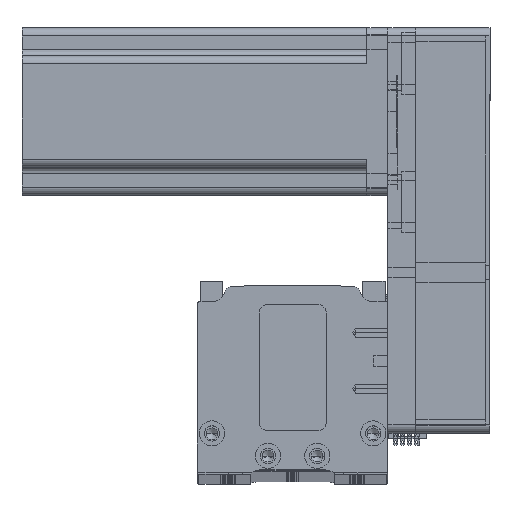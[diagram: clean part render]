
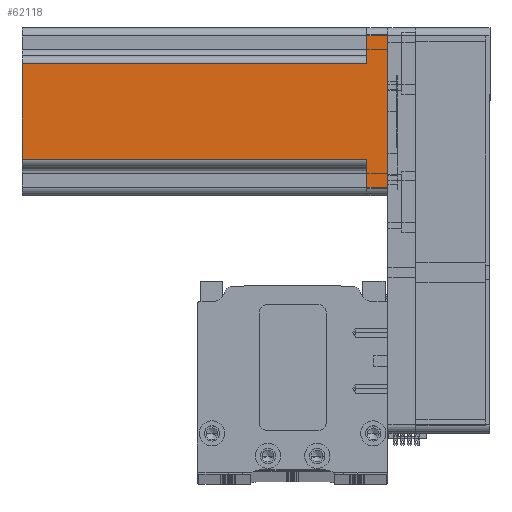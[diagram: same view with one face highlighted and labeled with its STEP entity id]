
A CAD part, top view. The second image highlights one B-rep face of the part: STEP entity #62118.
In plain terms, the highlighted planar face has unit normal (0, 0, 1) as drawn and (0, -1, 0) by its records, which use the part's own axes.
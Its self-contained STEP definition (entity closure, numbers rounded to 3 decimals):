
#728 = EDGE_LOOP ( 'NONE', ( #71172, #57577, #46473, #59480, #10242, #43525, #46793, #46458 ) ) ;
#2308 = CARTESIAN_POINT ( 'NONE',  ( 30., -30., 0. ) ) ;
#3893 = CARTESIAN_POINT ( 'NONE',  ( 17., -30., 130.7 ) ) ;
#5190 = VERTEX_POINT ( 'NONE', #15354 ) ;
#7346 = VECTOR ( 'NONE', #41332, 1000. ) ;
#8323 = EDGE_CURVE ( 'NONE', #66515, #42148, #66732, .T. ) ;
#8731 = CARTESIAN_POINT ( 'NONE',  ( -27., -30., 7.5 ) ) ;
#10242 = ORIENTED_EDGE ( 'NONE', *, *, #39668, .T. ) ;
#10531 = VERTEX_POINT ( 'NONE', #25193 ) ;
#10936 = LINE ( 'NONE', #56745, #40258 ) ;
#11362 = DIRECTION ( 'NONE',  ( 0., 0., 1. ) ) ;
#14525 = EDGE_CURVE ( 'NONE', #37146, #42148, #48694, .T. ) ;
#15354 = CARTESIAN_POINT ( 'NONE',  ( 27., -30., 0. ) ) ;
#16920 = CARTESIAN_POINT ( 'NONE',  ( 17., -30., 130.7 ) ) ;
#18093 = LINE ( 'NONE', #28769, #45663 ) ;
#19413 = VERTEX_POINT ( 'NONE', #8731 ) ;
#21954 = CARTESIAN_POINT ( 'NONE',  ( 17., -30., 7.5 ) ) ;
#22539 = CARTESIAN_POINT ( 'NONE',  ( -17., -30., 130.7 ) ) ;
#22640 = CARTESIAN_POINT ( 'NONE',  ( -17., -30., 7.5 ) ) ;
#23053 = VECTOR ( 'NONE', #30722, 1000. ) ;
#23876 = FACE_OUTER_BOUND ( 'NONE', #728, .T. ) ;
#23959 = VECTOR ( 'NONE', #36892, 1000. ) ;
#24042 = VERTEX_POINT ( 'NONE', #57423 ) ;
#24727 = DIRECTION ( 'NONE',  ( 1., 0., 0. ) ) ;
#25193 = CARTESIAN_POINT ( 'NONE',  ( -27., -30., 0. ) ) ;
#26922 = VECTOR ( 'NONE', #24727, 1000. ) ;
#28769 = CARTESIAN_POINT ( 'NONE',  ( -17., -30., 130.7 ) ) ;
#29521 = CARTESIAN_POINT ( 'NONE',  ( 30., -30., 130.7 ) ) ;
#30722 = DIRECTION ( 'NONE',  ( 1., 0., 0. ) ) ;
#32008 = EDGE_CURVE ( 'NONE', #24042, #37146, #10936, .T. ) ;
#32390 = DIRECTION ( 'NONE',  ( 0., 1., 0. ) ) ;
#32413 = VECTOR ( 'NONE', #11362, 1000. ) ;
#36892 = DIRECTION ( 'NONE',  ( 0., 0., -1. ) ) ;
#37146 = VERTEX_POINT ( 'NONE', #21954 ) ;
#37698 = PLANE ( 'NONE',  #55310 ) ;
#38699 = LINE ( 'NONE', #50964, #65990 ) ;
#39668 = EDGE_CURVE ( 'NONE', #10531, #5190, #51172, .T. ) ;
#39830 = DIRECTION ( 'NONE',  ( 0., 0., -1. ) ) ;
#40258 = VECTOR ( 'NONE', #56264, 1000. ) ;
#40307 = EDGE_CURVE ( 'NONE', #66515, #43077, #18093, .T. ) ;
#41332 = DIRECTION ( 'NONE',  ( 1., 0., 0. ) ) ;
#42148 = VERTEX_POINT ( 'NONE', #3893 ) ;
#43077 = VERTEX_POINT ( 'NONE', #22640 ) ;
#43525 = ORIENTED_EDGE ( 'NONE', *, *, #54691, .T. ) ;
#45519 = DIRECTION ( 'NONE',  ( 0., 0., 1. ) ) ;
#45663 = VECTOR ( 'NONE', #39830, 1000. ) ;
#46458 = ORIENTED_EDGE ( 'NONE', *, *, #14525, .T. ) ;
#46473 = ORIENTED_EDGE ( 'NONE', *, *, #53634, .F. ) ;
#46793 = ORIENTED_EDGE ( 'NONE', *, *, #32008, .T. ) ;
#48694 = LINE ( 'NONE', #16920, #32413 ) ;
#50964 = CARTESIAN_POINT ( 'NONE',  ( 27., -30., 130.7 ) ) ;
#51172 = LINE ( 'NONE', #2308, #7346 ) ;
#53634 = EDGE_CURVE ( 'NONE', #19413, #43077, #56073, .T. ) ;
#54691 = EDGE_CURVE ( 'NONE', #5190, #24042, #38699, .T. ) ;
#54920 = EDGE_CURVE ( 'NONE', #19413, #10531, #65920, .T. ) ;
#55310 = AXIS2_PLACEMENT_3D ( 'NONE', #65117, #32390, #70557 ) ;
#56073 = LINE ( 'NONE', #57554, #26922 ) ;
#56264 = DIRECTION ( 'NONE',  ( -1., 0., 0. ) ) ;
#56745 = CARTESIAN_POINT ( 'NONE',  ( 20., -30., 7.5 ) ) ;
#57423 = CARTESIAN_POINT ( 'NONE',  ( 27., -30., 7.5 ) ) ;
#57554 = CARTESIAN_POINT ( 'NONE',  ( -20., -30., 7.5 ) ) ;
#57577 = ORIENTED_EDGE ( 'NONE', *, *, #40307, .T. ) ;
#59480 = ORIENTED_EDGE ( 'NONE', *, *, #54920, .T. ) ;
#62118 = ADVANCED_FACE ( 'NONE', ( #23876 ), #37698, .F. ) ;
#65117 = CARTESIAN_POINT ( 'NONE',  ( 30., -30., 130.7 ) ) ;
#65920 = LINE ( 'NONE', #69740, #23959 ) ;
#65990 = VECTOR ( 'NONE', #45519, 1000. ) ;
#66515 = VERTEX_POINT ( 'NONE', #22539 ) ;
#66732 = LINE ( 'NONE', #29521, #23053 ) ;
#69740 = CARTESIAN_POINT ( 'NONE',  ( -27., -30., 130.7 ) ) ;
#70557 = DIRECTION ( 'NONE',  ( -1., 0., 0. ) ) ;
#71172 = ORIENTED_EDGE ( 'NONE', *, *, #8323, .F. ) ;
